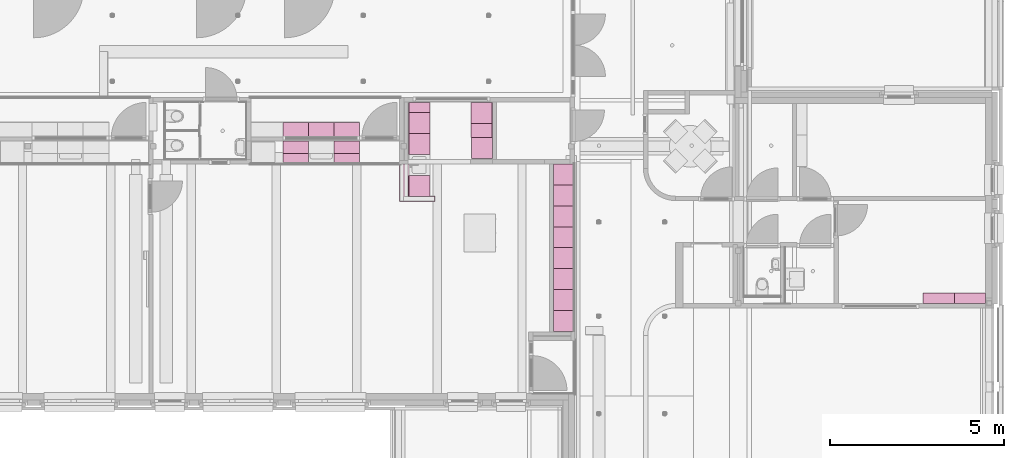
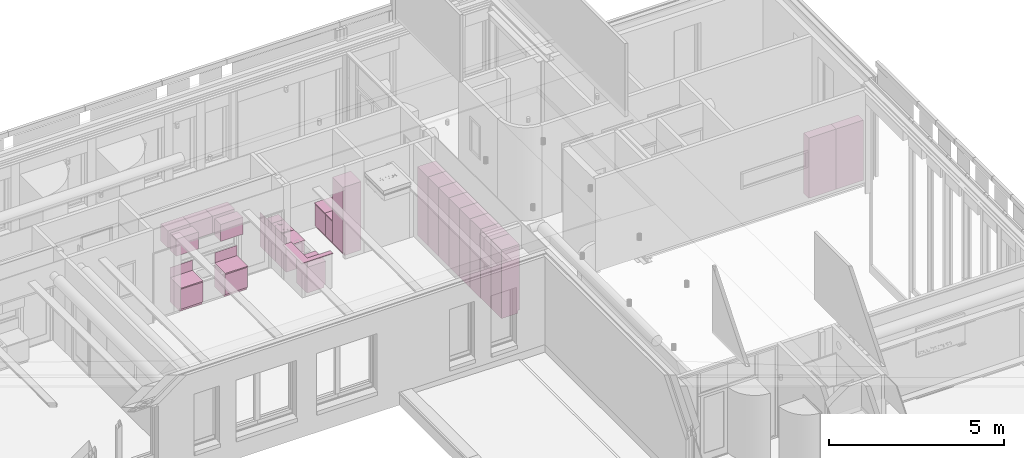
# One storey, part 91 of 128: 23 furnishings.
"""IFC2X3 building model written with IfcOpenShell, lengths in millimetres."""

from ifc_helpers import new_model, entity, si_unit, converted_unit, derived_unit, direction, frame, frame_2d, origin, origin_2d_with_axis, place, context, subcontext, project, spatial, polyline, rectangle, circle, outline, extrude, faceted_brep, source, transform, mapped, material, type_object, type_shapes, element, save


model = new_model("IFC2X3")

# Units and contexts
model_context = context("Model", 3, precision=0.01, world=origin(), true_north=direction((6.123031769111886e-17, 1.0)))
body_context = subcontext(model_context, "Body", "Model", "MODEL_VIEW")
ifc_project = project(units=[si_unit("LENGTHUNIT", "METRE", prefix="MILLI"), si_unit("AREAUNIT", "SQUARE_METRE"), si_unit("VOLUMEUNIT", "CUBIC_METRE"), converted_unit("PLANEANGLEUNIT", "DEGREE", entity("IfcRatioMeasure", 0.017453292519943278), si_unit("PLANEANGLEUNIT", "RADIAN"), dimensions=[0, 0, 0, 0, 0, 0, 0]), si_unit("MASSUNIT", "GRAM", prefix="KILO"), derived_unit("MASSDENSITYUNIT", [(si_unit("MASSUNIT", "GRAM", prefix="KILO"), 1), (si_unit("LENGTHUNIT", "METRE"), -3)]), derived_unit("IONCONCENTRATIONUNIT", [(si_unit("MASSUNIT", "GRAM", prefix="KILO"), 1), (si_unit("LENGTHUNIT", "METRE"), -3)]), derived_unit("MOMENTOFINERTIAUNIT", [(si_unit("LENGTHUNIT", "METRE"), 4)]), si_unit("TIMEUNIT", "SECOND"), si_unit("FREQUENCYUNIT", "HERTZ"), si_unit("THERMODYNAMICTEMPERATUREUNIT", "DEGREE_CELSIUS"), derived_unit("THERMALTRANSMITTANCEUNIT", [(si_unit("MASSUNIT", "GRAM", prefix="KILO"), 1), (si_unit("THERMODYNAMICTEMPERATUREUNIT", "KELVIN"), -1), (si_unit("TIMEUNIT", "SECOND"), -3)]), derived_unit("THERMALCONDUCTANCEUNIT", [(si_unit("MASSUNIT", "GRAM", prefix="KILO"), 1), (si_unit("THERMODYNAMICTEMPERATUREUNIT", "KELVIN"), -1), (si_unit("TIMEUNIT", "SECOND"), -3), (si_unit("LENGTHUNIT", "METRE"), 1)]), derived_unit("VOLUMETRICFLOWRATEUNIT", [(si_unit("LENGTHUNIT", "METRE"), 3), (si_unit("TIMEUNIT", "SECOND"), -1)]), derived_unit("MASSFLOWRATEUNIT", [(si_unit("MASSUNIT", "GRAM", prefix="KILO"), 1), (si_unit("TIMEUNIT", "SECOND"), -1)]), derived_unit("ROTATIONALFREQUENCYUNIT", [(si_unit("TIMEUNIT", "SECOND"), -1)]), si_unit("ELECTRICCURRENTUNIT", "AMPERE"), si_unit("ELECTRICVOLTAGEUNIT", "VOLT"), si_unit("POWERUNIT", "WATT"), si_unit("FORCEUNIT", "NEWTON", prefix="KILO"), si_unit("ILLUMINANCEUNIT", "LUX"), si_unit("LUMINOUSFLUXUNIT", "LUMEN"), si_unit("LUMINOUSINTENSITYUNIT", "CANDELA"), derived_unit("USERDEFINED", [(si_unit("MASSUNIT", "GRAM", prefix="KILO"), -1), (si_unit("LENGTHUNIT", "METRE"), -2), (si_unit("TIMEUNIT", "SECOND"), 3), (si_unit("LUMINOUSFLUXUNIT", "LUMEN"), 1)]), derived_unit("USERDEFINED", [(si_unit("MASSUNIT", "GRAM", prefix="KILO"), 1), (si_unit("TIMEUNIT", "SECOND"), -3), (si_unit("LENGTHUNIT", "METRE"), 3), (si_unit("ELECTRICCURRENTUNIT", "AMPERE"), -2)]), derived_unit("SOUNDPOWERUNIT", [(si_unit("MASSUNIT", "GRAM", prefix="KILO"), 1), (si_unit("TIMEUNIT", "SECOND"), -3), (si_unit("LENGTHUNIT", "METRE"), 2)]), derived_unit("SOUNDPRESSUREUNIT", [(si_unit("MASSUNIT", "GRAM", prefix="KILO"), 1), (si_unit("LENGTHUNIT", "METRE"), -1), (si_unit("TIMEUNIT", "SECOND"), -2)]), derived_unit("LINEARVELOCITYUNIT", [(si_unit("LENGTHUNIT", "METRE"), 1), (si_unit("TIMEUNIT", "SECOND"), -1)]), si_unit("PRESSUREUNIT", "PASCAL"), derived_unit("USERDEFINED", [(si_unit("MASSUNIT", "GRAM", prefix="KILO"), 1), (si_unit("LENGTHUNIT", "METRE"), -2), (si_unit("TIMEUNIT", "SECOND"), -2)]), derived_unit("LINEARFORCEUNIT", [(si_unit("MASSUNIT", "GRAM", prefix="KILO"), 1), (si_unit("TIMEUNIT", "SECOND"), -2)]), derived_unit("PLANARFORCEUNIT", [(si_unit("MASSUNIT", "GRAM", prefix="KILO"), 1), (si_unit("LENGTHUNIT", "METRE"), -1), (si_unit("TIMEUNIT", "SECOND"), -2)]), derived_unit("SPECIFICHEATCAPACITYUNIT", [(si_unit("THERMODYNAMICTEMPERATUREUNIT", "KELVIN"), -1), (si_unit("LENGTHUNIT", "METRE"), 2), (si_unit("TIMEUNIT", "SECOND"), -2)]), derived_unit("HEATINGVALUEUNIT", [(si_unit("LENGTHUNIT", "METRE"), 2), (si_unit("TIMEUNIT", "SECOND"), -2)]), derived_unit("VAPORPERMEABILITYUNIT", [(si_unit("LENGTHUNIT", "METRE"), -1), (si_unit("TIMEUNIT", "SECOND"), 1)]), derived_unit("DYNAMICVISCOSITYUNIT", [(si_unit("MASSUNIT", "GRAM", prefix="KILO"), 1), (si_unit("TIMEUNIT", "SECOND"), -1), (si_unit("LENGTHUNIT", "METRE"), -1)]), derived_unit("THERMALEXPANSIONCOEFFICIENTUNIT", [(si_unit("THERMODYNAMICTEMPERATUREUNIT", "KELVIN"), -1)]), derived_unit("MODULUSOFELASTICITYUNIT", [(si_unit("MASSUNIT", "GRAM", prefix="KILO"), 1), (si_unit("LENGTHUNIT", "METRE"), -1), (si_unit("TIMEUNIT", "SECOND"), -2)]), derived_unit("ISOTHERMALMOISTURECAPACITYUNIT", [(si_unit("LENGTHUNIT", "METRE"), 3), (si_unit("MASSUNIT", "GRAM", prefix="KILO"), -1)]), derived_unit("MOISTUREDIFFUSIVITYUNIT", [(si_unit("TIMEUNIT", "SECOND"), -1), (si_unit("LENGTHUNIT", "METRE"), 2)])], contexts=[model_context])

# Site, building, storey, space
site_placement = place(None, frame((0.0, 300.0, 0.0)))
site = spatial("IfcSite", under=ifc_project, at=site_placement, Name="<Kadastrale nummers>", CompositionType="ELEMENT")
building_placement = place(site_placement, origin())
building = spatial("IfcBuilding", under=site, at=building_placement, CompositionType="ELEMENT")
storey_placement = place(building_placement, frame((0.0, 0.0, 3560.0000331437)))
storey = spatial("IfcBuildingStorey", under=building, at=storey_placement, Name="01 eerste verdieping", CompositionType="ELEMENT", Elevation=3560.0000331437)
space_1_placement = place(storey_placement, origin())
space_1 = spatial("IfcSpace", under=storey, at=space_1_placement, Name="1.04", CompositionType="ELEMENT", InteriorOrExteriorSpace="INTERNAL")

# Furnishings
ifc_material_1 = material(Name="ISR_HPL Kleur hout")
furniture_type_1 = type_object("IfcFurnitureType", Name="00_DAT Vaste inrichting Keukenkasten:Kast met Bovenkast bovenbouw", material=ifc_material_1)
shared_shape_1 = source(origin(), body_context, "Body", "SweptSolid", [
    extrude(rectangle(XDim=9.999999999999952, YDim=734.9999999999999, at=origin_2d_with_axis()), frame((367.49999999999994, 5.0, 850.0), z_axis=(0.0, 0.0, 1.0), x_axis=(0.0, -1.0, 0.0)), (0.0, 0.0, 1.0), 350.00000000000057),
    extrude(outline(polyline([(-440.5, 107.50000000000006), (-440.5, -442.4999999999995), (409.4999999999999, -442.4999999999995), (409.4999999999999, 177.49999999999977), (371.4999999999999, 177.49999999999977), (371.4999999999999, 157.49999999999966), (-340.4999999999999, 157.49999999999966), (-340.4999999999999, 107.50000000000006), (-440.5, 107.50000000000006)])), frame((0.0, 442.4999999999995, 440.5), z_axis=(-1.0, 0.0, 0.0), x_axis=(0.0, 0.0, 1.0)), (0.0, 0.0, -1.0), 735.0000000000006),
    extrude(rectangle(XDim=350.0, YDim=735.0000000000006, at=origin_2d_with_axis()), frame((367.5000000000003, 175.0, 1800.0), z_axis=(0.0, 0.0, 1.0), x_axis=(0.0, -1.0, 0.0)), (0.0, 0.0, 1.0), 590.0000000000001),
])
type_shapes(furniture_type_1, [shared_shape_1])
furnishing_1_placement = place(space_1_placement, frame((30531.0, 45450.0, 90.00000187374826), z_axis=(0.0, 0.0, 1.0), x_axis=(-1.0, 0.0, 0.0)))
element("IfcFurnishingElement", 1, at=furnishing_1_placement, inside=space_1, type_object=furniture_type_1, material=ifc_material_1, Name="00_DAT Vaste inrichting Keukenkasten:Kast met Bovenkast bovenbouw", ObjectType="00_DAT Vaste inrichting Keukenkasten:Kast met Bovenkast bovenbouw", context=body_context, shape_type="MappedRepresentation", body=[
    mapped(shared_shape_1, transform((0.0, 0.0, 0.0), scale=1.0)),
])
furniture_type_2 = type_object("IfcFurnitureType", Name="00_DAT Vaste inrichting Keukenkasten:Kast met Bovenkast bovenbouw", material=ifc_material_1)
shared_shape_2 = source(origin(), body_context, "Body", "SweptSolid", [
    extrude(rectangle(XDim=9.999999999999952, YDim=734.9999999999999, at=origin_2d_with_axis()), frame((367.49999999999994, 5.0, 850.0), z_axis=(0.0, 0.0, 1.0), x_axis=(0.0, -1.0, 0.0)), (0.0, 0.0, 1.0), 350.00000000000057),
    extrude(outline(polyline([(-440.5, 107.50000000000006), (-440.5, -442.4999999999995), (409.4999999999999, -442.4999999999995), (409.4999999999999, 177.49999999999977), (371.4999999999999, 177.49999999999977), (371.4999999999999, 157.49999999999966), (-340.4999999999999, 157.49999999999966), (-340.4999999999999, 107.50000000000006), (-440.5, 107.50000000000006)])), frame((0.0, 442.4999999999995, 440.5), z_axis=(-1.0, 0.0, 0.0), x_axis=(0.0, 0.0, 1.0)), (0.0, 0.0, -1.0), 735.0000000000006),
    extrude(rectangle(XDim=350.0, YDim=735.0000000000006, at=origin_2d_with_axis()), frame((367.5000000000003, 175.0, 1800.0), z_axis=(0.0, 0.0, 1.0), x_axis=(0.0, -1.0, 0.0)), (0.0, 0.0, 1.0), 590.0000000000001),
])
type_shapes(furniture_type_2, [shared_shape_2])
furnishing_2_placement = place(space_1_placement, frame((29061.0, 45450.0, 90.00000187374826), z_axis=(0.0, 0.0, 1.0), x_axis=(-1.0, 0.0, 0.0)))
element("IfcFurnishingElement", 2, at=furnishing_2_placement, inside=space_1, type_object=furniture_type_2, material=ifc_material_1, Name="00_DAT Vaste inrichting Keukenkasten:Kast met Bovenkast bovenbouw", ObjectType="00_DAT Vaste inrichting Keukenkasten:Kast met Bovenkast bovenbouw", context=body_context, shape_type="MappedRepresentation", body=[
    mapped(shared_shape_2, transform((0.0, 0.0, 0.0), scale=1.0)),
])
ifc_material_2 = material(Name="ISR_RAL 9010")
furniture_type_3 = type_object("IfcFurnitureType", Name="00_DAT Vaste inrichting Keukenkasten:Kast zonder Bovenkast D600", material=ifc_material_2)
shared_shape_3 = source(origin(), body_context, "Body", "SweptSolid", [
    extrude(rectangle(XDim=9.999999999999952, YDim=600.0000000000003, at=frame_2d((4.440892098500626e-16, 0.0), x_axis=(1.0, 0.0))), frame((300.0, 5.0, 900.0), z_axis=(0.0, 0.0, 1.0), x_axis=(0.0, -1.0, 0.0)), (0.0, 0.0, 1.0), 300.00000000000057),
    extrude(outline(polyline([(-465.5, 107.50000000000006), (-465.5, -442.4999999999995), (434.50000000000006, -442.4999999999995), (434.50000000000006, 177.49999999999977), (396.5, 177.49999999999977), (396.5, 157.49999999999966), (-365.5, 157.49999999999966), (-365.5, 107.50000000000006), (-465.5, 107.50000000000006)])), frame((0.0, 442.4999999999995, 465.5), z_axis=(-1.0, 0.0, 0.0), x_axis=(0.0, 0.0, 1.0)), (0.0, 0.0, -1.0), 600.0000000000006),
])
type_shapes(furniture_type_3, [shared_shape_3])
furnishing_3_placement = place(space_1_placement, frame((31930.0, 44465.0, 90.00000187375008), z_axis=(0.0, 0.0, 1.0), x_axis=(0.0, -1.0, 0.0)))
element("IfcFurnishingElement", 3, at=furnishing_3_placement, inside=space_1, type_object=furniture_type_3, material=ifc_material_2, Name="00_DAT Vaste inrichting Keukenkasten:Kast zonder Bovenkast D600", ObjectType="00_DAT Vaste inrichting Keukenkasten:Kast zonder Bovenkast D600", context=body_context, shape_type="MappedRepresentation", body=[
    mapped(shared_shape_3, transform((0.0, 0.0, 0.0), scale=1.0)),
])
furniture_type_4 = type_object("IfcFurnitureType", Name="00_DAT Vaste inrichting Keukenkasten:Kast zonder Bovenkast D300", material=ifc_material_2)
shared_shape_4 = source(origin(), body_context, "Body", "SweptSolid", [
    extrude(rectangle(XDim=9.999999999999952, YDim=299.9999999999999, at=origin_2d_with_axis()), frame((150.0, 5.0, 900.0), z_axis=(0.0, 0.0, 1.0), x_axis=(0.0, -1.0, 0.0)), (0.0, 0.0, 1.0), 300.00000000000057),
    extrude(outline(polyline([(-465.5, 107.50000000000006), (-465.5, -442.4999999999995), (434.50000000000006, -442.4999999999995), (434.50000000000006, 177.49999999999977), (396.5, 177.49999999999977), (396.5, 157.49999999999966), (-365.5, 157.49999999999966), (-365.5, 107.50000000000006), (-465.5, 107.50000000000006)])), frame((0.0, 442.4999999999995, 465.5), z_axis=(-1.0, 0.0, 0.0), x_axis=(0.0, 0.0, 1.0)), (0.0, 0.0, -1.0), 300.00000000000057),
])
type_shapes(furniture_type_4, [shared_shape_4])
furnishing_4_placement = place(space_1_placement, frame((31930.0, 46565.0, 90.00000187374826), z_axis=(0.0, 0.0, 1.0), x_axis=(0.0, -1.0, 0.0)))
element("IfcFurnishingElement", 4, at=furnishing_4_placement, inside=space_1, type_object=furniture_type_4, material=ifc_material_2, Name="00_DAT Vaste inrichting Keukenkasten:Kast zonder Bovenkast D300", ObjectType="00_DAT Vaste inrichting Keukenkasten:Kast zonder Bovenkast D300", context=body_context, shape_type="MappedRepresentation", body=[
    mapped(shared_shape_4, transform((0.0, 0.0, 0.0), scale=1.0)),
])
furniture_type_5 = type_object("IfcFurnitureType", Name="00_DAT Vaste inrichting Keukenkasten:Kast zonder Bovenkast D600 Hogeplint", material=ifc_material_2)
shared_shape_5 = source(origin(), body_context, "Body", "SweptSolid", [
    extrude(rectangle(XDim=9.999999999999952, YDim=600.0000000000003, at=frame_2d((4.440892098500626e-16, 0.0), x_axis=(1.0, 0.0))), frame((300.0, 5.0, 900.0), z_axis=(0.0, 0.0, 1.0), x_axis=(0.0, -1.0, 0.0)), (0.0, 0.0, 1.0), 300.00000000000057),
    extrude(outline(polyline([(-478.0, 107.50000000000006), (-478.0, -442.4999999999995), (422.0, -442.4999999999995), (422.0, 177.49999999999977), (384.0, 177.49999999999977), (384.0, 157.49999999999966), (-328.0, 157.49999999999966), (-328.0, 107.50000000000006), (-478.0, 107.50000000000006)])), frame((0.0, 442.4999999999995, 478.0), z_axis=(-1.0, 0.0, 0.0), x_axis=(0.0, 0.0, 1.0)), (0.0, 0.0, -1.0), 600.0000000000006),
    extrude(rectangle(XDim=500.00000000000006, YDim=540.0, at=frame_2d((0.0, -2.842170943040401e-14), x_axis=(1.0, 0.0))), frame((300.0, 305.0, 900.0), z_axis=(0.0, 0.0, 1.0), x_axis=(0.0, 1.0, 0.0)), (0.0, 0.0, 1.0), 10.000000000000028),
    extrude(circle(Radius=75.00000000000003, at=frame_2d((0.0, -3.383959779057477e-13), x_axis=(1.0, 0.0))), frame((437.64508403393, 421.8273005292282, 900.0)), (0.0, 0.0, 1.0), 19.999999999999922),
    extrude(circle(Radius=110.0, at=frame_2d((0.0, -4.737543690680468e-13), x_axis=(1.0, 0.0))), frame((437.64508403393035, 210.27020098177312, 900.0)), (0.0, 0.0, 1.0), 19.999999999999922),
    extrude(circle(Radius=65.0, at=frame_2d((0.0, -2.707167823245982e-13), x_axis=(1.0, 0.0))), frame((128.32759220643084, 210.2702009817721, 900.0)), (0.0, 0.0, 1.0), 19.999999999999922),
    extrude(circle(Radius=75.00000000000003, at=frame_2d((0.0, -3.383959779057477e-13), x_axis=(1.0, 0.0))), frame((132.64508403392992, 421.8273005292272, 900.0)), (0.0, 0.0, 1.0), 19.999999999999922),
])
type_shapes(furniture_type_5, [shared_shape_5])
furnishing_5_placement = place(space_1_placement, frame((31930.0, 46265.0, 90.00000187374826), z_axis=(0.0, 0.0, 1.0), x_axis=(0.0, -1.0, 0.0)))
element("IfcFurnishingElement", 5, at=furnishing_5_placement, inside=space_1, type_object=furniture_type_5, material=ifc_material_2, Name="00_DAT Vaste inrichting Keukenkasten:Kast zonder Bovenkast D600 Hogeplint", ObjectType="00_DAT Vaste inrichting Keukenkasten:Kast zonder Bovenkast D600 Hogeplint", context=body_context, shape_type="MappedRepresentation", body=[
    mapped(shared_shape_5, transform((0.0, 0.0, 0.0), scale=1.0)),
])
furniture_type_6 = type_object("IfcFurnitureType", Name="00_DAT Vaste inrichting Keukenkasten:Kast zonder Bovenkast D600 Hogeplint", material=ifc_material_2)
shared_shape_6 = source(origin(), body_context, "Body", "SweptSolid", [
    extrude(rectangle(XDim=9.999999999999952, YDim=600.0000000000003, at=frame_2d((4.440892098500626e-16, 0.0), x_axis=(1.0, 0.0))), frame((300.0, 5.0, 900.0), z_axis=(0.0, 0.0, 1.0), x_axis=(0.0, -1.0, 0.0)), (0.0, 0.0, 1.0), 300.00000000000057),
    extrude(outline(polyline([(-478.0, 107.50000000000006), (-478.0, -442.4999999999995), (422.0, -442.4999999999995), (422.0, 177.49999999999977), (384.0, 177.49999999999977), (384.0, 157.49999999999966), (-328.0, 157.49999999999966), (-328.0, 107.50000000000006), (-478.0, 107.50000000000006)])), frame((0.0, 442.4999999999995, 478.0), z_axis=(-1.0, 0.0, 0.0), x_axis=(0.0, 0.0, 1.0)), (0.0, 0.0, -1.0), 600.0000000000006),
])
type_shapes(furniture_type_6, [shared_shape_6])
furnishing_6_placement = place(space_1_placement, frame((31930.0, 45665.0, 90.00000187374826), z_axis=(0.0, 0.0, 1.0), x_axis=(0.0, -1.0, 0.0)))
element("IfcFurnishingElement", 6, at=furnishing_6_placement, inside=space_1, type_object=furniture_type_6, material=ifc_material_2, Name="00_DAT Vaste inrichting Keukenkasten:Kast zonder Bovenkast D600 Hogeplint", ObjectType="00_DAT Vaste inrichting Keukenkasten:Kast zonder Bovenkast D600 Hogeplint", context=body_context, shape_type="MappedRepresentation", body=[
    mapped(shared_shape_6, transform((0.0, 0.0, 0.0), scale=1.0)),
])
furniture_type_7 = type_object("IfcFurnitureType", Name="00_DAT Vaste inrichting Keukenkasten:Kast zonder Bovenkast D600", material=ifc_material_2)
shared_shape_7 = source(origin(), body_context, "Body", "SweptSolid", [
    extrude(rectangle(XDim=9.999999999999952, YDim=600.0000000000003, at=frame_2d((4.440892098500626e-16, 0.0), x_axis=(1.0, 0.0))), frame((300.0, 5.0, 900.0), z_axis=(0.0, 0.0, 1.0), x_axis=(0.0, -1.0, 0.0)), (0.0, 0.0, 1.0), 300.00000000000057),
    extrude(outline(polyline([(-465.5, 107.50000000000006), (-465.5, -442.4999999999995), (434.50000000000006, -442.4999999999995), (434.50000000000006, 177.49999999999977), (396.5, 177.49999999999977), (396.5, 157.49999999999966), (-365.5, 157.49999999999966), (-365.5, 107.50000000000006), (-465.5, 107.50000000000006)])), frame((0.0, 442.4999999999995, 465.5), z_axis=(-1.0, 0.0, 0.0), x_axis=(0.0, 0.0, 1.0)), (0.0, 0.0, -1.0), 600.0000000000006),
])
type_shapes(furniture_type_7, [shared_shape_7])
furnishing_7_placement = place(space_1_placement, frame((34340.0, 45955.0, 90.00000187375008), z_axis=(0.0, 0.0, 1.0), x_axis=(0.0, 1.0, 0.0)))
element("IfcFurnishingElement", 7, at=furnishing_7_placement, inside=space_1, type_object=furniture_type_7, material=ifc_material_2, Name="00_DAT Vaste inrichting Keukenkasten:Kast zonder Bovenkast D600", ObjectType="00_DAT Vaste inrichting Keukenkasten:Kast zonder Bovenkast D600", context=body_context, shape_type="MappedRepresentation", body=[
    mapped(shared_shape_7, transform((0.0, 0.0, 0.0), scale=1.0)),
])
furniture_type_8 = type_object("IfcFurnitureType", Name="00_DAT Vaste inrichting Keukenkasten hoog:Hoge kast 600", material=ifc_material_2)
shared_shape_8 = source(origin(), body_context, "Body", "SweptSolid", [
    extrude(outline(polyline([(-166.66666666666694, -830.0), (383.3333333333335, -830.0), (383.3333333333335, 1560.0), (-216.66666666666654, 1560.0), (-216.66666666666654, -730.0), (-166.66666666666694, -730.0), (-166.66666666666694, -830.0)])), frame((0.0, -383.3333333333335, 830.0), z_axis=(1.0, 0.0, 0.0), x_axis=(0.0, 1.0, 0.0)), (0.0, 0.0, 1.0), 600.0000000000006),
])
type_shapes(furniture_type_8, [shared_shape_8])
furnishing_8_placement = place(space_1_placement, frame((34340.0, 45555.0, 90.00000187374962), z_axis=(0.0, 0.0, 1.0), x_axis=(0.0, -1.0, 0.0)))
element("IfcFurnishingElement", 8, at=furnishing_8_placement, inside=space_1, type_object=furniture_type_8, material=ifc_material_2, Name="00_DAT Vaste inrichting Keukenkasten hoog:Hoge kast 600", ObjectType="00_DAT Vaste inrichting Keukenkasten hoog:Hoge kast 600", context=body_context, shape_type="MappedRepresentation", body=[
    mapped(shared_shape_8, transform((0.0, 0.0, 0.0), scale=1.0)),
])
furniture_type_9 = type_object("IfcFurnitureType", Name="00_DAT Vaste inrichting Keukenkasten:Kast zonder Bovenkast D400", material=ifc_material_2)
shared_shape_9 = source(origin(), body_context, "Body", "SweptSolid", [
    extrude(rectangle(XDim=9.999999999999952, YDim=399.9999999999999, at=origin_2d_with_axis()), frame((200.0, 5.0, 900.0), z_axis=(0.0, 0.0, 1.0), x_axis=(0.0, -1.0, 0.0)), (0.0, 0.0, 1.0), 300.00000000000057),
    extrude(outline(polyline([(-465.5, 107.50000000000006), (-465.5, -442.4999999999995), (434.50000000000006, -442.4999999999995), (434.50000000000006, 177.49999999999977), (396.5, 177.49999999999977), (396.5, 157.49999999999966), (-365.5, 157.49999999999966), (-365.5, 107.50000000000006), (-465.5, 107.50000000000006)])), frame((0.0, 442.4999999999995, 465.5), z_axis=(-1.0, 0.0, 0.0), x_axis=(0.0, 0.0, 1.0)), (0.0, 0.0, -1.0), 400.00000000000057),
])
type_shapes(furniture_type_9, [shared_shape_9])
furnishing_9_placement = place(space_1_placement, frame((34340.0, 45555.0, 90.00000187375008), z_axis=(0.0, 0.0, 1.0), x_axis=(0.0, 1.0, 0.0)))
element("IfcFurnishingElement", 9, at=furnishing_9_placement, inside=space_1, type_object=furniture_type_9, material=ifc_material_2, Name="00_DAT Vaste inrichting Keukenkasten:Kast zonder Bovenkast D400", ObjectType="00_DAT Vaste inrichting Keukenkasten:Kast zonder Bovenkast D400", context=body_context, shape_type="MappedRepresentation", body=[
    mapped(shared_shape_9, transform((0.0, 0.0, 0.0), scale=1.0)),
])

# Space
space_2_placement = place(storey_placement, origin())
space_2 = spatial("IfcSpace", under=storey, at=space_2_placement, Name="1.10", CompositionType="ELEMENT", InteriorOrExteriorSpace="INTERNAL")

# Furnishings
furniture_type_10 = type_object("IfcFurnitureType", Name="00_DAT Vaste inrichting Keukenkasten hoog:Hogekast Lokaal 600B", material=ifc_material_2)
shared_shape_10 = source(origin(), body_context, "Body", "SweptSolid", [
    extrude(outline(polyline([(-166.66666666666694, -830.0), (383.3333333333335, -830.0), (383.3333333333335, 1560.0), (-216.66666666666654, 1560.0), (-216.66666666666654, -730.0), (-166.66666666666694, -730.0), (-166.66666666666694, -830.0)])), frame((0.0, -383.3333333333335, 830.0), z_axis=(1.0, 0.0, 0.0), x_axis=(0.0, 1.0, 0.0)), (0.0, 0.0, 1.0), 600.0000000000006),
])
type_shapes(furniture_type_10, [shared_shape_10])
for number, where, z_axis, x_axis, name in (
    (10, (36100.0, 44190.0, 90.00000187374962), (0.0, 0.0, 1.0), (0.0, 1.0, 0.0), "00_DAT Vaste inrichting Keukenkasten hoog:Hogekast Lokaal 600B"),
    (11, (36100.0, 42990.0, 90.00000187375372), (0.0, 0.0, 1.0), (0.0, 1.0, 0.0), "00_DAT Vaste inrichting Keukenkasten hoog:Hogekast Lokaal 600B"),
    (12, (36100.0, 41790.0, 90.00000187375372), (0.0, 0.0, 1.0), (0.0, 1.0, 0.0), "00_DAT Vaste inrichting Keukenkasten hoog:Hogekast Lokaal 600B"),
    (13, (36100.0, 40590.0, 90.00000187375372), (0.0, 0.0, 1.0), (0.0, 1.0, 0.0), "00_DAT Vaste inrichting Keukenkasten hoog:Hogekast Lokaal 600B"),
):
    element("IfcFurnishingElement", number, at=place(space_2_placement, frame(where, z_axis=z_axis, x_axis=x_axis)), inside=space_2, type_object=furniture_type_10, material=ifc_material_2, Name=name, ObjectType="00_DAT Vaste inrichting Keukenkasten hoog:Hogekast Lokaal 600B", context=body_context, shape_type="MappedRepresentation", body=[
        mapped(shared_shape_10, transform((0.0, 0.0, 0.0), scale=1.0)),
    ])
furniture_type_11 = type_object("IfcFurnitureType", Name="00_DAT Vaste inrichting Keukenkasten hoog:Hogekast Lokaal 600B", material=ifc_material_2)
shared_shape_11 = source(origin(), body_context, "Body", "SweptSolid", [
    extrude(outline(polyline([(-166.66666666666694, -830.0), (383.3333333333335, -830.0), (383.3333333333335, 1560.0), (-216.66666666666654, 1560.0), (-216.66666666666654, -730.0), (-166.66666666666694, -730.0), (-166.66666666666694, -830.0)])), frame((0.0, -383.3333333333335, 830.0), z_axis=(1.0, 0.0, 0.0), x_axis=(0.0, 1.0, 0.0)), (0.0, 0.0, 1.0), 600.0000000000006),
])
type_shapes(furniture_type_11, [shared_shape_11])
for number, where, z_axis, x_axis, name in (
    (14, (36100.0, 43590.0, 90.00000187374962), (0.0, 0.0, 1.0), (0.0, 1.0, 0.0), "00_DAT Vaste inrichting Keukenkasten hoog:Hogekast Lokaal 600B"),
    (15, (36100.0, 42390.0, 90.00000187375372), (0.0, 0.0, 1.0), (0.0, 1.0, 0.0), "00_DAT Vaste inrichting Keukenkasten hoog:Hogekast Lokaal 600B"),
    (16, (36100.0, 41190.0, 90.00000187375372), (0.0, 0.0, 1.0), (0.0, 1.0, 0.0), "00_DAT Vaste inrichting Keukenkasten hoog:Hogekast Lokaal 600B"),
    (17, (36100.0, 39990.0, 90.00000187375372), (0.0, 0.0, 1.0), (0.0, 1.0, 0.0), "00_DAT Vaste inrichting Keukenkasten hoog:Hogekast Lokaal 600B"),
):
    element("IfcFurnishingElement", number, at=place(space_2_placement, frame(where, z_axis=z_axis, x_axis=x_axis)), inside=space_2, type_object=furniture_type_11, material=ifc_material_2, Name=name, ObjectType="00_DAT Vaste inrichting Keukenkasten hoog:Hogekast Lokaal 600B", context=body_context, shape_type="MappedRepresentation", body=[
        mapped(shared_shape_11, transform((0.0, 0.0, 0.0), scale=1.0)),
    ])

# Space
space_3_placement = place(storey_placement, origin())
space_3 = spatial("IfcSpace", under=storey, at=space_3_placement, Name="1.17", CompositionType="ELEMENT", InteriorOrExteriorSpace="INTERNAL")

# Furnishings
furniture_type_12 = type_object("IfcFurnitureType", Name="NLRS_82_FU_LB_kast boeken_gen_ASN:boekenkast gen bxhxd 900 x 2100 x 300", material=ifc_material_2)
shared_shape_12 = source(origin(), body_context, "Body", "Brep", [
    faceted_brep([(468.95565431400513, -18.0, 1620.0), (-395.04434568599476, -18.0, 1620.0), (-395.0443456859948, -268.0, 1620.0), (468.95565431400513, -268.0, 1620.0), (468.95565431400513, -18.0, 1600.0), (468.95565431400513, -268.0, 1600.0), (-395.0443456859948, -268.0, 1600.0), (-395.04434568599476, -18.0, 1600.0)], [[[0, 1, 2, 3]], [[4, 5, 6, 7]], [[1, 0, 4, 7]], [[2, 1, 7, 6]], [[3, 2, 6, 5]], [[0, 3, 5, 4]]]),
    faceted_brep([(468.95565431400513, -18.0, 1200.0), (-395.04434568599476, -18.0, 1200.0), (-395.0443456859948, -268.0, 1200.0), (468.95565431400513, -268.0, 1200.0), (468.95565431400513, -18.0, 1180.0), (468.95565431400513, -268.0, 1180.0), (-395.0443456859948, -268.0, 1180.0), (-395.04434568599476, -18.0, 1180.0)], [[[0, 1, 2, 3]], [[4, 5, 6, 7]], [[1, 0, 4, 7]], [[2, 1, 7, 6]], [[3, 2, 6, 5]], [[0, 3, 5, 4]]]),
    faceted_brep([(468.95565431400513, -18.0, 400.0), (-395.0443456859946, -18.0, 400.0), (-395.0443456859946, -268.0, 400.0), (468.95565431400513, -268.0, 400.0), (468.95565431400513, -18.0, 380.0), (468.95565431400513, -268.0, 380.0), (-395.0443456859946, -268.0, 380.0), (-395.0443456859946, -18.0, 380.0)], [[[0, 1, 2, 3]], [[4, 5, 6, 7]], [[1, 0, 4, 7]], [[2, 1, 7, 6]], [[3, 2, 6, 5]], [[0, 3, 5, 4]]]),
    faceted_brep([(468.95565431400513, -18.0, 800.0), (-395.04434568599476, -18.0, 800.0), (-395.0443456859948, -268.0, 800.0), (468.95565431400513, -268.0, 800.0), (468.95565431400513, -18.0, 780.0), (468.95565431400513, -268.0, 780.0), (-395.0443456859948, -268.0, 780.0), (-395.04434568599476, -18.0, 780.0)], [[[0, 1, 2, 3]], [[4, 5, 6, 7]], [[1, 0, 4, 7]], [[2, 1, 7, 6]], [[3, 2, 6, 5]], [[0, 3, 5, 4]]]),
    faceted_brep([(486.9556543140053, 0.0, 2100.0), (-413.04434568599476, 0.0, 2100.0), (-413.0443456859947, -300.0, 2100.0), (486.9556543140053, -300.0, 2100.0), (486.9556543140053, 0.0, 0.0), (486.9556543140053, -300.0, 0.0), (-413.0443456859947, -300.0, 0.0), (-413.04434568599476, 0.0, 0.0), (-395.04434568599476, -300.0, 2082.0), (468.95565431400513, -300.0, 2082.0), (468.95565431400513, -300.0, 68.0), (-395.0443456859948, -300.0, 68.0), (468.95565431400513, -18.0, 2082.0), (-395.04434568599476, -18.0, 2082.0), (468.95565431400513, -18.0, 68.0), (-395.04434568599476, -18.0, 68.0)], [[[0, 1, 2, 3]], [[4, 5, 6, 7]], [[1, 0, 4, 7]], [[2, 1, 7, 6]], [[3, 2, 6, 5], [8, 9, 10, 11]], [[0, 3, 5, 4]], [[12, 9, 8, 13]], [[14, 15, 11, 10]], [[12, 13, 15, 14]], [[13, 8, 11, 15]], [[9, 12, 14, 10]]]),
])
type_shapes(furniture_type_12, [shared_shape_12])
for number, where, z_axis, x_axis in (
    (18, (48086.95565431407, 40790.0, 90.00000187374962), (0.0, 0.0, 1.0), (-1.0, 0.0, 0.0)),
    (19, (47186.95565431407, 40790.0, 90.00000187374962), (0.0, 0.0, 1.0), (-1.0, 0.0, 0.0)),
):
    element("IfcFurnishingElement", number, at=place(space_3_placement, frame(where, z_axis=z_axis, x_axis=x_axis)), inside=space_3, type_object=furniture_type_12, material=ifc_material_2, Name="NLRS_82_FU_LB_kast boeken_gen_ASN:boekenkast gen bxhxd 900 x 2100 x 300", ObjectType="NLRS_82_FU_LB_kast boeken_gen_ASN:boekenkast gen bxhxd 900 x 2100 x 300", context=body_context, shape_type="MappedRepresentation", body=[
        mapped(shared_shape_12, transform((0.0, 0.0, 0.0), scale=1.0)),
    ])

# Space
space_4_placement = place(storey_placement, origin())
space_4 = spatial("IfcSpace", under=storey, at=space_4_placement, Name="1.04a", CompositionType="ELEMENT", InteriorOrExteriorSpace="INTERNAL")

# Furnishings
furniture_type_13 = type_object("IfcFurnitureType", Name="00_DAT Vaste inrichting Boven Keukenkasten:Bovenkast Gaderobe bso", material=ifc_material_1)
shared_shape_13 = source(origin(), body_context, "Body", "SweptSolid", [
    extrude(rectangle(XDim=415.0, YDim=735.0000000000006, at=origin_2d_with_axis()), frame((367.5000000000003, 207.5, 1800.0), z_axis=(0.0, 0.0, 1.0), x_axis=(0.0, -1.0, 0.0)), (0.0, 0.0, 1.0), 589.9999999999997),
])
type_shapes(furniture_type_13, [shared_shape_13])
for number, where, name in (
    (20, (29796.0, 45575.0, 90.00000187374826), "00_DAT Vaste inrichting Boven Keukenkasten:Bovenkast Gaderobe bso"),
    (21, (28326.0, 45575.0, 90.00000187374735), "00_DAT Vaste inrichting Boven Keukenkasten:Bovenkast Gaderobe bso"),
):
    element("IfcFurnishingElement", number, at=place(space_4_placement, frame(where)), inside=space_4, type_object=furniture_type_13, material=ifc_material_1, Name=name, ObjectType="00_DAT Vaste inrichting Boven Keukenkasten:Bovenkast Gaderobe bso", context=body_context, shape_type="MappedRepresentation", body=[
        mapped(shared_shape_13, transform((0.0, 0.0, 0.0), scale=1.0)),
    ])
furniture_type_14 = type_object("IfcFurnitureType", Name="00_DAT Vaste inrichting Boven Keukenkasten:Bovenkast Gaderobe bso", material=ifc_material_1)
shared_shape_14 = source(origin(), body_context, "Body", "SweptSolid", [
    extrude(rectangle(XDim=415.0, YDim=735.0000000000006, at=origin_2d_with_axis()), frame((367.5000000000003, 207.5, 1800.0), z_axis=(0.0, 0.0, 1.0), x_axis=(0.0, -1.0, 0.0)), (0.0, 0.0, 1.0), 589.9999999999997),
])
type_shapes(furniture_type_14, [shared_shape_14])
furnishing_10_placement = place(space_4_placement, frame((29061.0, 45575.0, 90.00000187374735)))
element("IfcFurnishingElement", 22, at=furnishing_10_placement, inside=space_4, type_object=furniture_type_14, material=ifc_material_1, Name="00_DAT Vaste inrichting Boven Keukenkasten:Bovenkast Gaderobe bso", ObjectType="00_DAT Vaste inrichting Boven Keukenkasten:Bovenkast Gaderobe bso", context=body_context, shape_type="MappedRepresentation", body=[
    mapped(shared_shape_14, transform((0.0, 0.0, 0.0), scale=1.0)),
])
furniture_type_15 = type_object("IfcFurnitureType", Name="Furniture 4:Furniture 4", material=ifc_material_2)
shared_shape_15 = source(origin(), body_context, "Body", "SweptSolid", [
    extrude(outline(polyline([(-595.0, -255.0), (-595.0, -410.0), (432.50000000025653, -410.0), (432.5000000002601, 665.0), (162.50000000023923, 665.0), (162.5000000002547, -255.0), (-595.0, -255.0)])), frame((32102.49999999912, 44125.0, 4850.000035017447), z_axis=(0.0, 0.0, -1.0), x_axis=(-1.0, 0.0, 0.0)), (0.0, 0.0, -1.0), 20.00000000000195),
])
type_shapes(furniture_type_15, [shared_shape_15])
furnishing_11_placement = place(space_1_placement, frame((0.0, 0.0, -3560.0000331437)))
element("IfcFurnishingElement", 23, at=furnishing_11_placement, inside=space_1, type_object=furniture_type_15, material=ifc_material_2, Name="Furniture 4:Furniture 4", ObjectType="Furniture 4:Furniture 4", context=body_context, shape_type="MappedRepresentation", body=[
    mapped(shared_shape_15, transform((0.0, 0.0, 0.0), scale=1.0)),
])

save(model, "model.ifc")
